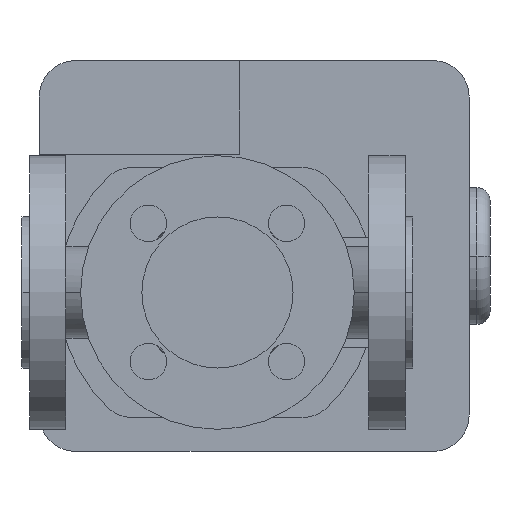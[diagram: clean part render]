
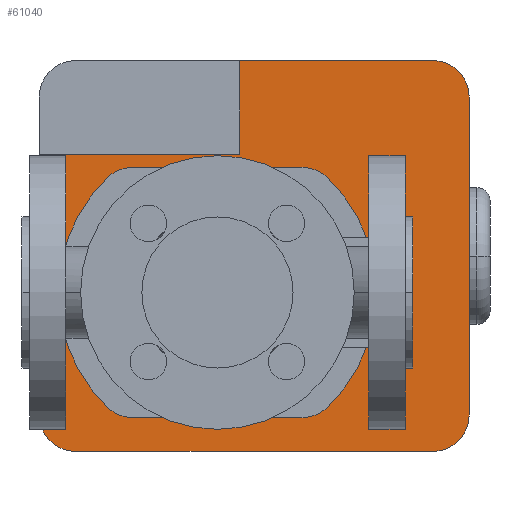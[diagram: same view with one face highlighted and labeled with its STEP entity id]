
A CAD part, front view. The second image highlights one B-rep face of the part: STEP entity #61040.
In plain terms, the highlighted planar face has unit normal (0, -1, 0).
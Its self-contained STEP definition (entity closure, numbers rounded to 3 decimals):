
#49470=CARTESIAN_POINT('',(134.96,498.,11.216));
#49480=VERTEX_POINT('',#49470);
#49510=CARTESIAN_POINT('',(125.,498.,0.));
#49520=DIRECTION('',(0.,1.,0.));
#49530=DIRECTION('',(0.,0.,1.));
#49540=AXIS2_PLACEMENT_3D('',#49510,#49520,#49530);
#49550=CIRCLE('',#49540,15.);
#49560=CARTESIAN_POINT('',(134.96,498.,-11.216));
#49570=VERTEX_POINT('',#49560);
#49580=EDGE_CURVE('',#49480,#49570,#49550,.T.);
#52300=CARTESIAN_POINT('',(117.116,498.,44.128));
#52310=VERTEX_POINT('',#52300);
#52340=CARTESIAN_POINT('',(75.,498.,0.));
#52350=DIRECTION('',(0.,1.,0.));
#52360=DIRECTION('',(0.69,0.,0.723));
#52370=AXIS2_PLACEMENT_3D('',#52340,#52350,#52360);
#52380=CIRCLE('',#52370,61.);
#52390=EDGE_CURVE('',#52310,#49480,#52380,.T.);
#52780=CARTESIAN_POINT('',(15.04,498.,-11.216));
#52790=VERTEX_POINT('',#52780);
#52820=CARTESIAN_POINT('',(25.,498.,0.));
#52830=DIRECTION('',(0.,1.,0.));
#52840=DIRECTION('',(0.,0.,-1.));
#52850=AXIS2_PLACEMENT_3D('',#52820,#52830,#52840);
#52860=CIRCLE('',#52850,15.);
#52870=CARTESIAN_POINT('',(15.04,498.,11.216));
#52880=VERTEX_POINT('',#52870);
#52890=EDGE_CURVE('',#52790,#52880,#52860,.T.);
#53880=CARTESIAN_POINT('',(32.884,498.,-44.128));
#53890=VERTEX_POINT('',#53880);
#53920=CARTESIAN_POINT('',(75.,498.,0.));
#53930=DIRECTION('',(0.,1.,0.));
#53940=DIRECTION('',(-0.69,0.,-0.723));
#53950=AXIS2_PLACEMENT_3D('',#53920,#53930,#53940);
#53960=CIRCLE('',#53950,61.);
#53970=EDGE_CURVE('',#53890,#52790,#53960,.T.);
#56300=CARTESIAN_POINT('',(20.6,498.,-61.));
#56310=VERTEX_POINT('',#56300);
#56340=CARTESIAN_POINT('',(157.6,498.,-61.));
#56350=DIRECTION('',(-1.,0.,0.));
#56360=VECTOR('',#56350,1.);
#56370=LINE('',#56340,#56360);
#56380=CARTESIAN_POINT('',(157.6,498.,-61.));
#56390=VERTEX_POINT('',#56380);
#56400=EDGE_CURVE('',#56390,#56310,#56370,.T.);
#59280=CARTESIAN_POINT('',(171.6,498.,-47.));
#59290=VERTEX_POINT('',#59280);
#59320=CARTESIAN_POINT('',(171.6,498.,75.));
#59330=DIRECTION('',(0.,0.,-1.));
#59340=VECTOR('',#59330,1.);
#59350=LINE('',#59320,#59340);
#59360=CARTESIAN_POINT('',(171.6,498.,75.));
#59370=VERTEX_POINT('',#59360);
#59380=EDGE_CURVE('',#59370,#59290,#59350,.T.);
#59680=CARTESIAN_POINT('',(75.,498.,0.));
#59690=DIRECTION('',(0.,1.,0.));
#59700=DIRECTION('',(0.,0.,1.));
#59710=AXIS2_PLACEMENT_3D('',#59680,#59690,#59700);
#59720=PLANE('',#59710);
#59730=ORIENTED_EDGE('',*,*,#52390,.T.);
#59740=CARTESIAN_POINT('',(107.45,498.,34.));
#59750=DIRECTION('',(0.,1.,0.));
#59760=DIRECTION('',(0.,0.,1.));
#59770=AXIS2_PLACEMENT_3D('',#59740,#59750,#59760);
#59780=CIRCLE('',#59770,14.);
#59790=CARTESIAN_POINT('',(107.45,498.,48.));
#59800=VERTEX_POINT('',#59790);
#59810=EDGE_CURVE('',#59800,#52310,#59780,.T.);
#59820=ORIENTED_EDGE('',*,*,#59810,.T.);
#59830=CARTESIAN_POINT('',(58.775,498.,48.));
#59840=DIRECTION('',(1.,0.,0.));
#59850=VECTOR('',#59840,1.);
#59860=LINE('',#59830,#59850);
#59870=CARTESIAN_POINT('',(42.55,498.,48.));
#59880=VERTEX_POINT('',#59870);
#59890=EDGE_CURVE('',#59880,#59800,#59860,.T.);
#59900=ORIENTED_EDGE('',*,*,#59890,.T.);
#59910=CARTESIAN_POINT('',(42.55,498.,34.));
#59920=DIRECTION('',(0.,1.,0.));
#59930=DIRECTION('',(-0.69,0.,0.723));
#59940=AXIS2_PLACEMENT_3D('',#59910,#59920,#59930);
#59950=CIRCLE('',#59940,14.);
#59960=CARTESIAN_POINT('',(32.884,498.,44.128));
#59970=VERTEX_POINT('',#59960);
#59980=EDGE_CURVE('',#59970,#59880,#59950,.T.);
#59990=ORIENTED_EDGE('',*,*,#59980,.T.);
#60000=CARTESIAN_POINT('',(75.,498.,0.));
#60010=DIRECTION('',(0.,1.,0.));
#60020=DIRECTION('',(-0.69,0.,-0.723));
#60030=AXIS2_PLACEMENT_3D('',#60000,#60010,#60020);
#60040=CIRCLE('',#60030,61.);
#60050=EDGE_CURVE('',#52880,#59970,#60040,.T.);
#60060=ORIENTED_EDGE('',*,*,#60050,.T.);
#60070=ORIENTED_EDGE('',*,*,#52890,.T.);
#60080=ORIENTED_EDGE('',*,*,#53970,.T.);
#60090=CARTESIAN_POINT('',(42.55,498.,-34.));
#60100=DIRECTION('',(0.,1.,0.));
#60110=DIRECTION('',(0.,0.,-1.));
#60120=AXIS2_PLACEMENT_3D('',#60090,#60100,#60110);
#60130=CIRCLE('',#60120,14.);
#60140=CARTESIAN_POINT('',(42.55,498.,-48.));
#60150=VERTEX_POINT('',#60140);
#60160=EDGE_CURVE('',#60150,#53890,#60130,.T.);
#60170=ORIENTED_EDGE('',*,*,#60160,.T.);
#60180=CARTESIAN_POINT('',(91.225,498.,-48.));
#60190=DIRECTION('',(-1.,0.,0.));
#60200=VECTOR('',#60190,1.);
#60210=LINE('',#60180,#60200);
#60220=CARTESIAN_POINT('',(107.45,498.,-48.));
#60230=VERTEX_POINT('',#60220);
#60240=EDGE_CURVE('',#60230,#60150,#60210,.T.);
#60250=ORIENTED_EDGE('',*,*,#60240,.T.);
#60260=CARTESIAN_POINT('',(107.45,498.,-34.));
#60270=DIRECTION('',(0.,1.,0.));
#60280=DIRECTION('',(0.69,0.,-0.723));
#60290=AXIS2_PLACEMENT_3D('',#60260,#60270,#60280);
#60300=CIRCLE('',#60290,14.);
#60310=CARTESIAN_POINT('',(117.116,498.,-44.128));
#60320=VERTEX_POINT('',#60310);
#60330=EDGE_CURVE('',#60320,#60230,#60300,.T.);
#60340=ORIENTED_EDGE('',*,*,#60330,.T.);
#60350=CARTESIAN_POINT('',(75.,498.,0.));
#60360=DIRECTION('',(0.,1.,0.));
#60370=DIRECTION('',(0.69,0.,0.723));
#60380=AXIS2_PLACEMENT_3D('',#60350,#60360,#60370);
#60390=CIRCLE('',#60380,61.);
#60400=EDGE_CURVE('',#49570,#60320,#60390,.T.);
#60410=ORIENTED_EDGE('',*,*,#60400,.T.);
#60420=ORIENTED_EDGE('',*,*,#49580,.T.);
#60430=EDGE_LOOP('',(#60420,#60410,#60340,#60250,#60170,#60080,#60070,
#60060,#59990,#59900,#59820,#59730));
#60440=FACE_BOUND('',#60430,.T.);
#60450=CARTESIAN_POINT('',(83.6,498.,26.5));
#60460=DIRECTION('',(0.,0.,-1.));
#60470=VECTOR('',#60460,1.);
#60480=LINE('',#60450,#60470);
#60490=CARTESIAN_POINT('',(83.6,498.,89.));
#60500=VERTEX_POINT('',#60490);
#60510=CARTESIAN_POINT('',(83.6,498.,53.));
#60520=VERTEX_POINT('',#60510);
#60530=EDGE_CURVE('',#60500,#60520,#60480,.T.);
#60540=ORIENTED_EDGE('',*,*,#60530,.T.);
#60550=CARTESIAN_POINT('',(20.6,498.,89.));
#60560=DIRECTION('',(1.,0.,0.));
#60570=VECTOR('',#60560,1.);
#60580=LINE('',#60550,#60570);
#60590=CARTESIAN_POINT('',(157.6,498.,89.));
#60600=VERTEX_POINT('',#60590);
#60610=EDGE_CURVE('',#60500,#60600,#60580,.T.);
#60620=ORIENTED_EDGE('',*,*,#60610,.F.);
#60630=CARTESIAN_POINT('',(157.6,498.,75.));
#60640=DIRECTION('',(0.,1.,0.));
#60650=DIRECTION('',(0.,0.,1.));
#60660=AXIS2_PLACEMENT_3D('',#60630,#60640,#60650);
#60670=CIRCLE('',#60660,14.);
#60680=EDGE_CURVE('',#60600,#59370,#60670,.T.);
#60690=ORIENTED_EDGE('',*,*,#60680,.F.);
#60700=ORIENTED_EDGE('',*,*,#59380,.F.);
#60710=CARTESIAN_POINT('',(157.6,498.,-47.));
#60720=DIRECTION('',(0.,1.,0.));
#60730=DIRECTION('',(1.,0.,0.));
#60740=AXIS2_PLACEMENT_3D('',#60710,#60720,#60730);
#60750=CIRCLE('',#60740,14.);
#60760=EDGE_CURVE('',#59290,#56390,#60750,.T.);
#60770=ORIENTED_EDGE('',*,*,#60760,.F.);
#60780=ORIENTED_EDGE('',*,*,#56400,.F.);
#60790=CARTESIAN_POINT('',(20.6,498.,-47.));
#60800=DIRECTION('',(0.,1.,0.));
#60810=DIRECTION('',(0.,0.,-1.));
#60820=AXIS2_PLACEMENT_3D('',#60790,#60800,#60810);
#60830=CIRCLE('',#60820,14.);
#60840=CARTESIAN_POINT('',(6.6,498.,-47.));
#60850=VERTEX_POINT('',#60840);
#60860=EDGE_CURVE('',#56310,#60850,#60830,.T.);
#60870=ORIENTED_EDGE('',*,*,#60860,.F.);
#60880=CARTESIAN_POINT('',(6.6,498.,-47.));
#60890=DIRECTION('',(0.,0.,1.));
#60900=VECTOR('',#60890,1.);
#60910=LINE('',#60880,#60900);
#60920=CARTESIAN_POINT('',(6.6,498.,53.));
#60930=VERTEX_POINT('',#60920);
#60940=EDGE_CURVE('',#60850,#60930,#60910,.T.);
#60950=ORIENTED_EDGE('',*,*,#60940,.F.);
#60960=CARTESIAN_POINT('',(40.3,498.,53.));
#60970=DIRECTION('',(-1.,0.,0.));
#60980=VECTOR('',#60970,1.);
#60990=LINE('',#60960,#60980);
#61000=EDGE_CURVE('',#60520,#60930,#60990,.T.);
#61010=ORIENTED_EDGE('',*,*,#61000,.T.);
#61020=EDGE_LOOP('',(#61010,#60950,#60870,#60780,#60770,#60700,#60690,
#60620,#60540));
#61030=FACE_OUTER_BOUND('',#61020,.T.);
#61040=ADVANCED_FACE('',(#60440,#61030),#59720,.F.);
